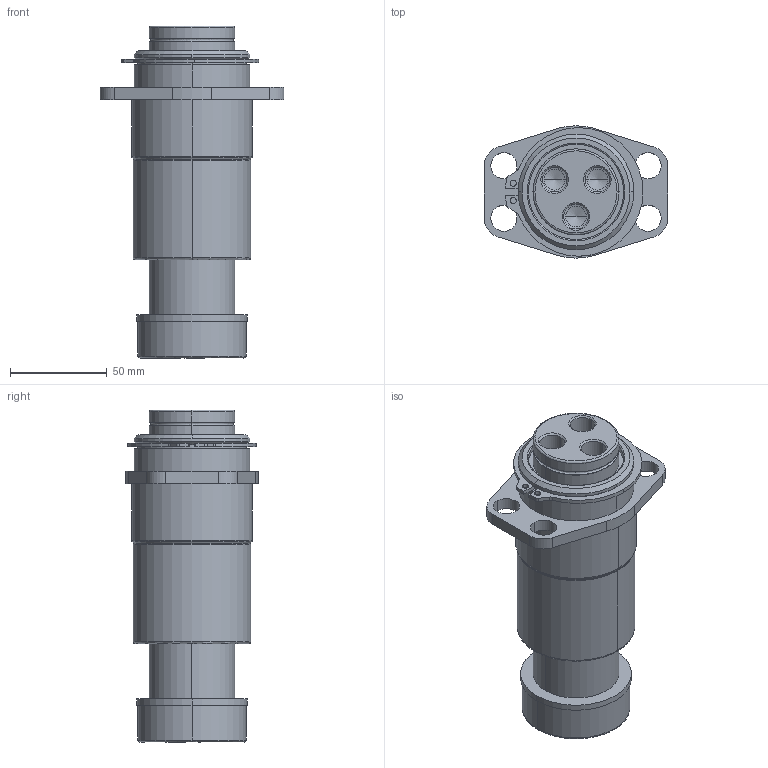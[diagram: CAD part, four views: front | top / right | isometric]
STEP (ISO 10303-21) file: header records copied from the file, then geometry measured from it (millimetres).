
FILE_DESCRIPTION (( 'STEP AP214' ), '1' );
FILE_NAME ('GK180-N4-1-TB-E-XXX.STEP', '2020-09-22T11:46:49', ( '' ), ( '' ), 'SwSTEP 2.0', 'SolidWorks 2017', '' );
FILE_SCHEMA (( 'AUTOMOTIVE_DESIGN' ));
Length unit declared in the file: inch
Products named in the file (7): GK1.75-N4-1-TB-Base; GK180-E-XXX-GuidePin; GK180-DampeningWasher; GK180-N4-1-TB-E-XXX; RetainingRing
Assembly tree (6 placements, depth 3):
  GK180-N4-1-TB-E-XXX
    GK1.75-N4-1-TB-Base
      GK1.75-N4-1-TB-Base
      RetainingRing
    GK180-E-XXX-GuidePin
      GK180-E-XXX-GuidePin
      GK180-DampeningWasher
Bounding box: 94.79 x 68.33 x 171.45 mm (x, y, z)
Volume: 430965.9 mm3; surface area: 83025.7 mm2
Topology: 4 solids, 4 shells, 135 faces, 315 edges, 191 vertices
Faces by surface type: cylinder 65, plane 26, cone 24, bspline 20
Entity records: 4747 total; most frequent: CARTESIAN_POINT 1196, DIRECTION 725, ORIENTED_EDGE 618, EDGE_CURVE 309, AXIS2_PLACEMENT_3D 300, VERTEX_POINT 191, CIRCLE 174, EDGE_LOOP 160
